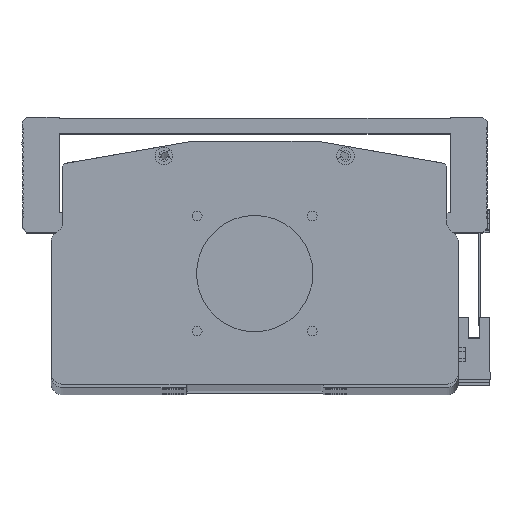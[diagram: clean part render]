
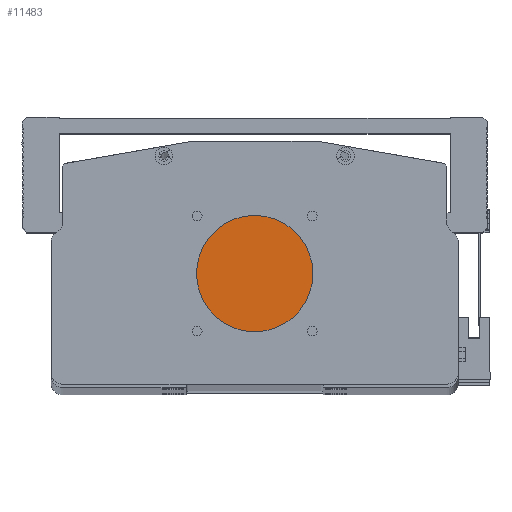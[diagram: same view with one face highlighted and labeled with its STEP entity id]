
A CAD part, top view. The second image highlights one B-rep face of the part: STEP entity #11483.
In plain terms, the highlighted planar face has unit normal (0, 0, 1).
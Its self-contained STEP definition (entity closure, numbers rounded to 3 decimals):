
#184 = PLANE ( 'NONE',  #23763 ) ;
#3173 = CARTESIAN_POINT ( 'NONE',  ( 0., 0., 0. ) ) ;
#6119 = CARTESIAN_POINT ( 'NONE',  ( 62.5, 47.5, 0. ) ) ;
#6140 = EDGE_LOOP ( 'NONE', ( #37013, #18761 ) ) ;
#6175 = AXIS2_PLACEMENT_3D ( 'NONE', #27088, #9394, #29995 ) ;
#6194 = DIRECTION ( 'NONE',  ( 1., 0., 0. ) ) ;
#7179 = VERTEX_POINT ( 'NONE', #6119 ) ;
#7839 = CARTESIAN_POINT ( 'NONE',  ( 112.5, 47.5, 0. ) ) ;
#9392 = CARTESIAN_POINT ( 'NONE',  ( 87.5, 47.5, 0. ) ) ;
#9394 = DIRECTION ( 'NONE',  ( 0., 0., 1. ) ) ;
#11483 = ADVANCED_FACE ( 'NONE', ( #34243 ), #184, .T. ) ;
#12434 = DIRECTION ( 'NONE',  ( 1., 0., 0. ) ) ;
#12604 = EDGE_CURVE ( 'NONE', #35792, #7179, #31395, .T. ) ;
#14381 = CIRCLE ( 'NONE', #17645, 25. ) ;
#17645 = AXIS2_PLACEMENT_3D ( 'NONE', #9392, #29993, #12434 ) ;
#18761 = ORIENTED_EDGE ( 'NONE', *, *, #12604, .T. ) ;
#23763 = AXIS2_PLACEMENT_3D ( 'NONE', #3173, #23931, #6194 ) ;
#23931 = DIRECTION ( 'NONE',  ( 0., 0., 1. ) ) ;
#26073 = EDGE_CURVE ( 'NONE', #7179, #35792, #14381, .T. ) ;
#27088 = CARTESIAN_POINT ( 'NONE',  ( 87.5, 47.5, 0. ) ) ;
#29993 = DIRECTION ( 'NONE',  ( 0., 0., 1. ) ) ;
#29995 = DIRECTION ( 'NONE',  ( 1., 0., 0. ) ) ;
#31395 = CIRCLE ( 'NONE', #6175, 25. ) ;
#34243 = FACE_OUTER_BOUND ( 'NONE', #6140, .T. ) ;
#35792 = VERTEX_POINT ( 'NONE', #7839 ) ;
#37013 = ORIENTED_EDGE ( 'NONE', *, *, #26073, .T. ) ;
